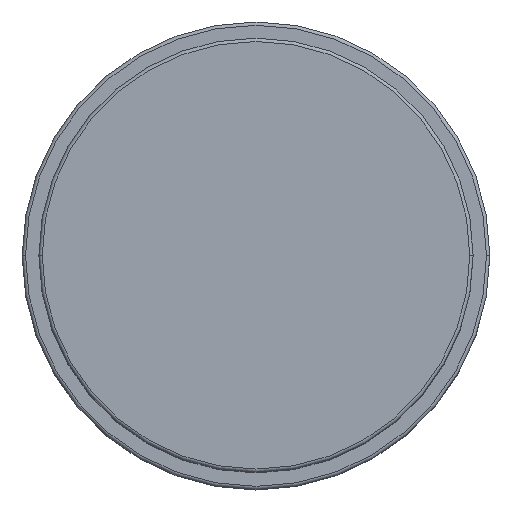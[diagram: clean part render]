
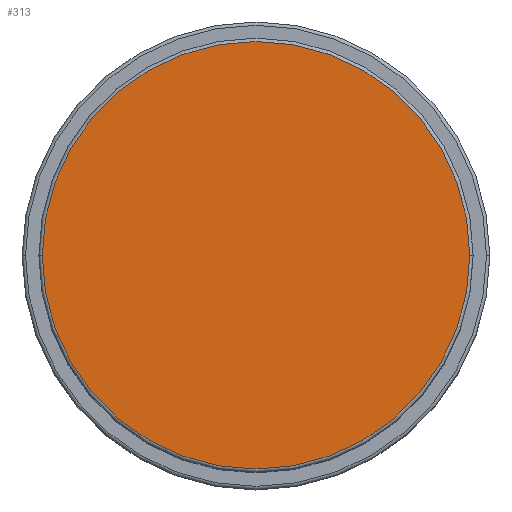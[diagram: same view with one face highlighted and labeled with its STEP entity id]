
A CAD part, top view. The second image highlights one B-rep face of the part: STEP entity #313.
In plain terms, the highlighted planar face has unit normal (0, 0, 1).
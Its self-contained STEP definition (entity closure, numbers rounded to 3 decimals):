
#25 = CARTESIAN_POINT ( 'NONE',  ( -32., 0., 77. ) ) ;
#242 = AXIS2_PLACEMENT_3D ( 'NONE', #1112, #731, #592 ) ;
#297 = CARTESIAN_POINT ( 'NONE',  ( 0., 0., 77. ) ) ;
#313 = ADVANCED_FACE ( 'NONE', ( #345 ), #1566, .T. ) ;
#345 = FACE_OUTER_BOUND ( 'NONE', #1314, .T. ) ;
#408 = DIRECTION ( 'NONE',  ( 1., 0., 0. ) ) ;
#481 = AXIS2_PLACEMENT_3D ( 'NONE', #1424, #783, #408 ) ;
#592 = DIRECTION ( 'NONE',  ( 1., 0., 0. ) ) ;
#623 = CIRCLE ( 'NONE', #481, 32. ) ;
#731 = DIRECTION ( 'NONE',  ( 0., 0., 1. ) ) ;
#783 = DIRECTION ( 'NONE',  ( 0., 0., 1. ) ) ;
#795 = AXIS2_PLACEMENT_3D ( 'NONE', #297, #1063, #814 ) ;
#814 = DIRECTION ( 'NONE',  ( 1., 0., 0. ) ) ;
#902 = VERTEX_POINT ( 'NONE', #25 ) ;
#923 = EDGE_CURVE ( 'NONE', #902, #926, #623, .T. ) ;
#925 = CARTESIAN_POINT ( 'NONE',  ( 32., 0., 77. ) ) ;
#926 = VERTEX_POINT ( 'NONE', #925 ) ;
#933 = ORIENTED_EDGE ( 'NONE', *, *, #1247, .T. ) ;
#978 = ORIENTED_EDGE ( 'NONE', *, *, #923, .T. ) ;
#1063 = DIRECTION ( 'NONE',  ( 0., 0., 1. ) ) ;
#1112 = CARTESIAN_POINT ( 'NONE',  ( 0., 0., 77. ) ) ;
#1247 = EDGE_CURVE ( 'NONE', #926, #902, #1592, .T. ) ;
#1314 = EDGE_LOOP ( 'NONE', ( #933, #978 ) ) ;
#1424 = CARTESIAN_POINT ( 'NONE',  ( 0., 0., 77. ) ) ;
#1566 = PLANE ( 'NONE',  #795 ) ;
#1592 = CIRCLE ( 'NONE', #242, 32. ) ;
